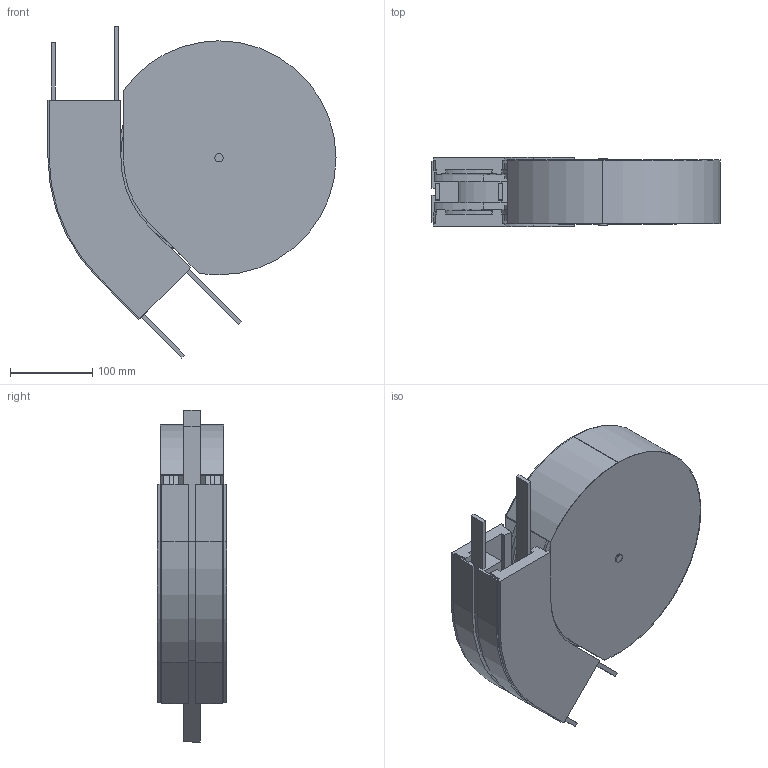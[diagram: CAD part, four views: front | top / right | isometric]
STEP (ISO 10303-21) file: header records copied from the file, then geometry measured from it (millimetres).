
FILE_DESCRIPTION (( 'STEP AP214' ), '1' );
FILE_NAME ('927751 CS090SL Horizontale schijfbochtsectie R162,5 45°.STEP', '2014-03-20T15:37:41', ( 'Beheerder' ), ( '' ), 'SwSTEP 2.0', 'SolidWorks 2012', '' );
FILE_SCHEMA (( 'AUTOMOTIVE_DESIGN' ));
Length unit declared in the file: millimetre
Products named in the file (1): 927751 CS090SL Horizontale schijfbochtsectie R162,5 45°
Bounding box: 349.5 x 84 x 402.89 mm (x, y, z)
Volume: 2857454.4 mm3; surface area: 757923.5 mm2
Topology: 3 solids, 3 shells, 184 faces, 490 edges, 320 vertices
Faces by surface type: plane 122, cylinder 58, cone 4
Entity records: 5754 total; most frequent: CARTESIAN_POINT 995, DIRECTION 980, ORIENTED_EDGE 980, EDGE_CURVE 490, VECTOR 370, LINE 370, VERTEX_POINT 320, AXIS2_PLACEMENT_3D 305
